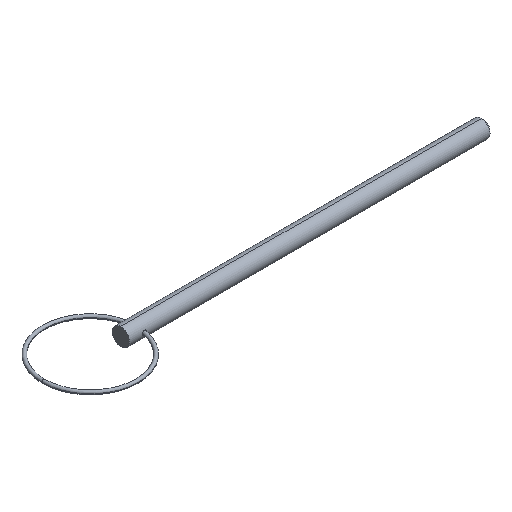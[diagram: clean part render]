
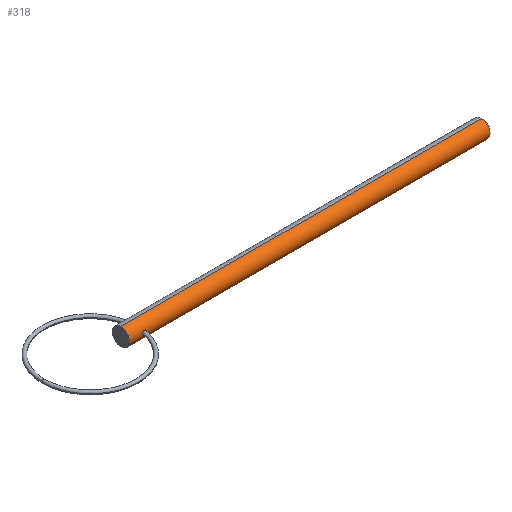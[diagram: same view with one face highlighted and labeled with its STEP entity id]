
A CAD part, isometric view. The second image highlights one B-rep face of the part: STEP entity #318.
In plain terms, the highlighted cylindrical face has radius 2.38 mm (diameter 4.76 mm), a partial arc.
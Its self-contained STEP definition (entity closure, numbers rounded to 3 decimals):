
#1 = CARTESIAN_POINT ( 'NONE',  ( 3.538, -2.38, -0.159 ) ) ;
#22 = CARTESIAN_POINT ( 'NONE',  ( 0., 0., 0. ) ) ;
#23 = EDGE_LOOP ( 'NONE', ( #758, #476 ) ) ;
#47 = ORIENTED_EDGE ( 'NONE', *, *, #356, .F. ) ;
#61 = FACE_OUTER_BOUND ( 'NONE', #450, .T. ) ;
#73 = ORIENTED_EDGE ( 'NONE', *, *, #615, .T. ) ;
#86 = CARTESIAN_POINT ( 'NONE',  ( 3.538, -2.38, 0. ) ) ;
#91 = ORIENTED_EDGE ( 'NONE', *, *, #501, .T. ) ;
#94 = CARTESIAN_POINT ( 'NONE',  ( 3.538, -2.38, 0. ) ) ;
#100 = VERTEX_POINT ( 'NONE', #86 ) ;
#118 = CARTESIAN_POINT ( 'NONE',  ( 4.75, -2.38, 0. ) ) ;
#150 = CARTESIAN_POINT ( 'NONE',  ( 4.687, -2.362, 0.314 ) ) ;
#185 = FACE_BOUND ( 'NONE', #23, .T. ) ;
#188 = DIRECTION ( 'NONE',  ( 0., 0., -1. ) ) ;
#195 = CARTESIAN_POINT ( 'NONE',  ( 3.538, -2.38, 0.159 ) ) ;
#200 = DIRECTION ( 'NONE',  ( 1., 0., 0. ) ) ;
#224 = DIRECTION ( 'NONE',  ( 0., 0., -1. ) ) ;
#232 = CARTESIAN_POINT ( 'NONE',  ( 4.75, -2.38, 0. ) ) ;
#248 = DIRECTION ( 'NONE',  ( 1., 0., 0. ) ) ;
#253 = CARTESIAN_POINT ( 'NONE',  ( 3.836, -2.323, -0.528 ) ) ;
#281 = DIRECTION ( 'NONE',  ( 0., 0., -1. ) ) ;
#283 = VERTEX_POINT ( 'NONE', #780 ) ;
#285 = LINE ( 'NONE', #543, #601 ) ;
#308 = VERTEX_POINT ( 'NONE', #390 ) ;
#313 = CARTESIAN_POINT ( 'NONE',  ( 3.61, -2.362, -0.312 ) ) ;
#316 = CARTESIAN_POINT ( 'NONE',  ( 0., 0., 2.38 ) ) ;
#318 = ADVANCED_FACE ( 'NONE', ( #61, #185 ), #499, .T. ) ;
#324 = CARTESIAN_POINT ( 'NONE',  ( 3.992, -2.305, -0.592 ) ) ;
#328 = CARTESIAN_POINT ( 'NONE',  ( 3.991, -2.305, 0.592 ) ) ;
#331 = CARTESIAN_POINT ( 'NONE',  ( 3.61, -2.362, 0.313 ) ) ;
#356 = EDGE_CURVE ( 'NONE', #645, #308, #496, .T. ) ;
#390 = CARTESIAN_POINT ( 'NONE',  ( 98.135, 0., 2.38 ) ) ;
#391 = B_SPLINE_CURVE_WITH_KNOTS ( 'NONE', 3,
 ( #232, #725, #393, #701, #465, #324, #253, #313, #1, #94 ),
 .UNSPECIFIED., .F., .F.,
 ( 4, 2, 2, 2, 4 ),
 ( 0.002, 0.003, 0.003, 0.004, 0.004 ),
 .UNSPECIFIED. ) ;
#393 = CARTESIAN_POINT ( 'NONE',  ( 4.687, -2.362, -0.314 ) ) ;
#396 = CARTESIAN_POINT ( 'NONE',  ( 4.465, -2.322, 0.535 ) ) ;
#401 = DIRECTION ( 'NONE',  ( 1., 0., 0. ) ) ;
#414 = ORIENTED_EDGE ( 'NONE', *, *, #697, .F. ) ;
#450 = EDGE_LOOP ( 'NONE', ( #47, #73, #91, #414 ) ) ;
#463 = CARTESIAN_POINT ( 'NONE',  ( 4.307, -2.304, 0.597 ) ) ;
#465 = CARTESIAN_POINT ( 'NONE',  ( 4.307, -2.304, -0.597 ) ) ;
#468 = CARTESIAN_POINT ( 'NONE',  ( 0., 0., 2.38 ) ) ;
#476 = ORIENTED_EDGE ( 'NONE', *, *, #494, .T. ) ;
#484 = CIRCLE ( 'NONE', #711, 2.38 ) ;
#494 = EDGE_CURVE ( 'NONE', #518, #100, #391, .T. ) ;
#495 = AXIS2_PLACEMENT_3D ( 'NONE', #752, #200, #224 ) ;
#496 = LINE ( 'NONE', #316, #709 ) ;
#499 = CYLINDRICAL_SURFACE ( 'NONE', #723, 2.38 ) ;
#501 = EDGE_CURVE ( 'NONE', #283, #586, #285, .T. ) ;
#518 = VERTEX_POINT ( 'NONE', #118 ) ;
#528 = CARTESIAN_POINT ( 'NONE',  ( 3.538, -2.38, 0. ) ) ;
#543 = CARTESIAN_POINT ( 'NONE',  ( 0., 0., -2.38 ) ) ;
#561 = EDGE_CURVE ( 'NONE', #100, #518, #572, .T. ) ;
#572 = B_SPLINE_CURVE_WITH_KNOTS ( 'NONE', 3,
 ( #528, #195, #331, #692, #328, #463, #396, #150, #632, #636 ),
 .UNSPECIFIED., .F., .F.,
 ( 4, 2, 2, 2, 4 ),
 ( 0., 0.001, 0.001, 0.002, 0.002 ),
 .UNSPECIFIED. ) ;
#576 = CARTESIAN_POINT ( 'NONE',  ( 98.135, 0., -2.38 ) ) ;
#585 = CIRCLE ( 'NONE', #495, 2.38 ) ;
#586 = VERTEX_POINT ( 'NONE', #576 ) ;
#601 = VECTOR ( 'NONE', #667, 1000. ) ;
#615 = EDGE_CURVE ( 'NONE', #645, #283, #484, .T. ) ;
#632 = CARTESIAN_POINT ( 'NONE',  ( 4.75, -2.38, 0.157 ) ) ;
#636 = CARTESIAN_POINT ( 'NONE',  ( 4.75, -2.38, 0. ) ) ;
#645 = VERTEX_POINT ( 'NONE', #468 ) ;
#667 = DIRECTION ( 'NONE',  ( 1., 0., 0. ) ) ;
#692 = CARTESIAN_POINT ( 'NONE',  ( 3.836, -2.323, 0.528 ) ) ;
#697 = EDGE_CURVE ( 'NONE', #308, #586, #585, .T. ) ;
#701 = CARTESIAN_POINT ( 'NONE',  ( 4.464, -2.322, -0.536 ) ) ;
#709 = VECTOR ( 'NONE', #248, 1000. ) ;
#711 = AXIS2_PLACEMENT_3D ( 'NONE', #22, #401, #281 ) ;
#723 = AXIS2_PLACEMENT_3D ( 'NONE', #728, #742, #188 ) ;
#725 = CARTESIAN_POINT ( 'NONE',  ( 4.75, -2.38, -0.157 ) ) ;
#728 = CARTESIAN_POINT ( 'NONE',  ( 0., 0., 0. ) ) ;
#742 = DIRECTION ( 'NONE',  ( 1., 0., 0. ) ) ;
#752 = CARTESIAN_POINT ( 'NONE',  ( 98.135, 0., 0. ) ) ;
#758 = ORIENTED_EDGE ( 'NONE', *, *, #561, .T. ) ;
#780 = CARTESIAN_POINT ( 'NONE',  ( 0., 0., -2.38 ) ) ;
